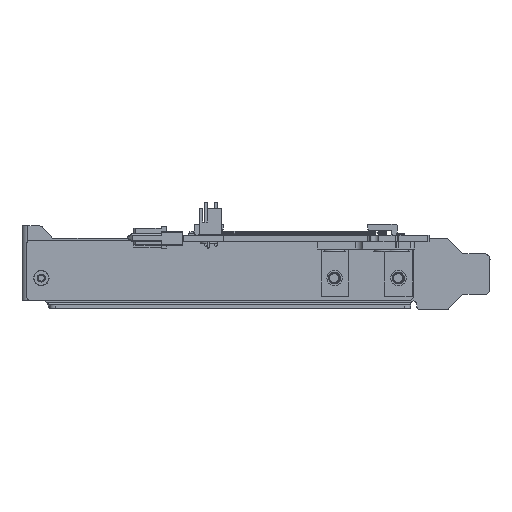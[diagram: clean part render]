
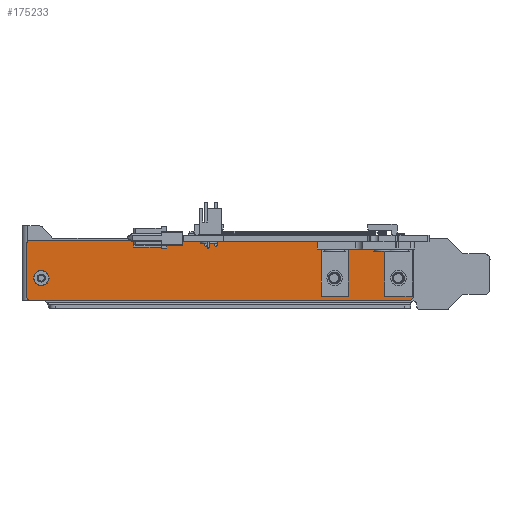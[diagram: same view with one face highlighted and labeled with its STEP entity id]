
A CAD part, left-side view. The second image highlights one B-rep face of the part: STEP entity #175233.
In plain terms, the highlighted planar face has unit normal (-1, 0, 0) as drawn and (0, 0, -1) by its records, which use the part's own axes.
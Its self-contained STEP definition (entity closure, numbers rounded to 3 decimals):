
#175233 = ADVANCED_FACE('',(#175234,#175245,#175256,#175267),#175337,.F.
  );
#175234 = FACE_BOUND('',#175235,.F.);
#175235 = EDGE_LOOP('',(#175236));
#175236 = ORIENTED_EDGE('',*,*,#175237,.F.);
#175237 = EDGE_CURVE('',#175238,#175238,#175240,.T.);
#175238 = VERTEX_POINT('',#175239);
#175239 = CARTESIAN_POINT('',(105.277,12.342,0.));
#175240 = CIRCLE('',#175241,1.6);
#175241 = AXIS2_PLACEMENT_3D('',#175242,#175243,#175244);
#175242 = CARTESIAN_POINT('',(103.677,12.342,0.));
#175243 = DIRECTION('',(0.,0.,1.));
#175244 = DIRECTION('',(1.,0.,-0.));
#175245 = FACE_BOUND('',#175246,.F.);
#175246 = EDGE_LOOP('',(#175247));
#175247 = ORIENTED_EDGE('',*,*,#175248,.F.);
#175248 = EDGE_CURVE('',#175249,#175249,#175251,.T.);
#175249 = VERTEX_POINT('',#175250);
#175250 = CARTESIAN_POINT('',(29.777,12.342,0.));
#175251 = CIRCLE('',#175252,1.6);
#175252 = AXIS2_PLACEMENT_3D('',#175253,#175254,#175255);
#175253 = CARTESIAN_POINT('',(28.177,12.342,0.));
#175254 = DIRECTION('',(0.,0.,1.));
#175255 = DIRECTION('',(1.,0.,-0.));
#175256 = FACE_BOUND('',#175257,.F.);
#175257 = EDGE_LOOP('',(#175258));
#175258 = ORIENTED_EDGE('',*,*,#175259,.F.);
#175259 = EDGE_CURVE('',#175260,#175260,#175262,.T.);
#175260 = VERTEX_POINT('',#175261);
#175261 = CARTESIAN_POINT('',(13.277,12.342,0.));
#175262 = CIRCLE('',#175263,1.6);
#175263 = AXIS2_PLACEMENT_3D('',#175264,#175265,#175266);
#175264 = CARTESIAN_POINT('',(11.677,12.342,0.));
#175265 = DIRECTION('',(0.,0.,1.));
#175266 = DIRECTION('',(1.,0.,-0.));
#175267 = FACE_BOUND('',#175268,.T.);
#175268 = EDGE_LOOP('',(#175269,#175280,#175288,#175297,#175305,#175314,
    #175322,#175331));
#175269 = ORIENTED_EDGE('',*,*,#175270,.F.);
#175270 = EDGE_CURVE('',#175271,#175273,#175275,.T.);
#175271 = VERTEX_POINT('',#175272);
#175272 = CARTESIAN_POINT('',(107.677,21.242,0.));
#175273 = VERTEX_POINT('',#175274);
#175274 = CARTESIAN_POINT('',(106.677,22.242,0.));
#175275 = CIRCLE('',#175276,1.);
#175276 = AXIS2_PLACEMENT_3D('',#175277,#175278,#175279);
#175277 = CARTESIAN_POINT('',(106.677,21.242,0.));
#175278 = DIRECTION('',(0.,0.,1.));
#175279 = DIRECTION('',(1.,0.,-0.));
#175280 = ORIENTED_EDGE('',*,*,#175281,.F.);
#175281 = EDGE_CURVE('',#175282,#175271,#175284,.T.);
#175282 = VERTEX_POINT('',#175283);
#175283 = CARTESIAN_POINT('',(107.677,7.742,0.));
#175284 = LINE('',#175285,#175286);
#175285 = CARTESIAN_POINT('',(107.677,21.242,0.));
#175286 = VECTOR('',#175287,1.);
#175287 = DIRECTION('',(0.,1.,-0.));
#175288 = ORIENTED_EDGE('',*,*,#175289,.F.);
#175289 = EDGE_CURVE('',#175290,#175282,#175292,.T.);
#175290 = VERTEX_POINT('',#175291);
#175291 = CARTESIAN_POINT('',(106.677,6.742,0.));
#175292 = CIRCLE('',#175293,1.);
#175293 = AXIS2_PLACEMENT_3D('',#175294,#175295,#175296);
#175294 = CARTESIAN_POINT('',(106.677,7.742,0.));
#175295 = DIRECTION('',(0.,0.,1.));
#175296 = DIRECTION('',(1.,0.,-0.));
#175297 = ORIENTED_EDGE('',*,*,#175298,.F.);
#175298 = EDGE_CURVE('',#175299,#175290,#175301,.T.);
#175299 = VERTEX_POINT('',#175300);
#175300 = CARTESIAN_POINT('',(8.677,6.742,0.));
#175301 = LINE('',#175302,#175303);
#175302 = CARTESIAN_POINT('',(8.677,6.742,0.));
#175303 = VECTOR('',#175304,1.);
#175304 = DIRECTION('',(1.,0.,0.));
#175305 = ORIENTED_EDGE('',*,*,#175306,.F.);
#175306 = EDGE_CURVE('',#175307,#175299,#175309,.T.);
#175307 = VERTEX_POINT('',#175308);
#175308 = CARTESIAN_POINT('',(7.677,7.742,0.));
#175309 = CIRCLE('',#175310,1.);
#175310 = AXIS2_PLACEMENT_3D('',#175311,#175312,#175313);
#175311 = CARTESIAN_POINT('',(8.677,7.742,0.));
#175312 = DIRECTION('',(0.,0.,1.));
#175313 = DIRECTION('',(1.,0.,-0.));
#175314 = ORIENTED_EDGE('',*,*,#175315,.F.);
#175315 = EDGE_CURVE('',#175316,#175307,#175318,.T.);
#175316 = VERTEX_POINT('',#175317);
#175317 = CARTESIAN_POINT('',(7.677,21.242,0.));
#175318 = LINE('',#175319,#175320);
#175319 = CARTESIAN_POINT('',(7.677,21.242,0.));
#175320 = VECTOR('',#175321,1.);
#175321 = DIRECTION('',(0.,-1.,0.));
#175322 = ORIENTED_EDGE('',*,*,#175323,.F.);
#175323 = EDGE_CURVE('',#175324,#175316,#175326,.T.);
#175324 = VERTEX_POINT('',#175325);
#175325 = CARTESIAN_POINT('',(8.677,22.242,0.));
#175326 = CIRCLE('',#175327,1.);
#175327 = AXIS2_PLACEMENT_3D('',#175328,#175329,#175330);
#175328 = CARTESIAN_POINT('',(8.677,21.242,0.));
#175329 = DIRECTION('',(0.,0.,1.));
#175330 = DIRECTION('',(1.,0.,-0.));
#175331 = ORIENTED_EDGE('',*,*,#175332,.F.);
#175332 = EDGE_CURVE('',#175273,#175324,#175333,.T.);
#175333 = LINE('',#175334,#175335);
#175334 = CARTESIAN_POINT('',(106.677,22.242,0.));
#175335 = VECTOR('',#175336,1.);
#175336 = DIRECTION('',(-1.,0.,0.));
#175337 = PLANE('',#175338);
#175338 = AXIS2_PLACEMENT_3D('',#175339,#175340,#175341);
#175339 = CARTESIAN_POINT('',(106.677,21.242,0.));
#175340 = DIRECTION('',(0.,0.,1.));
#175341 = DIRECTION('',(1.,0.,-0.));
